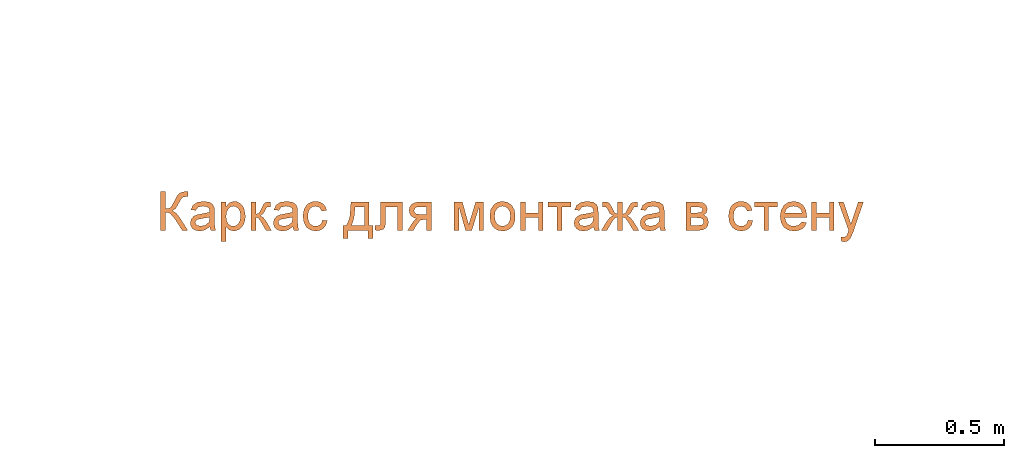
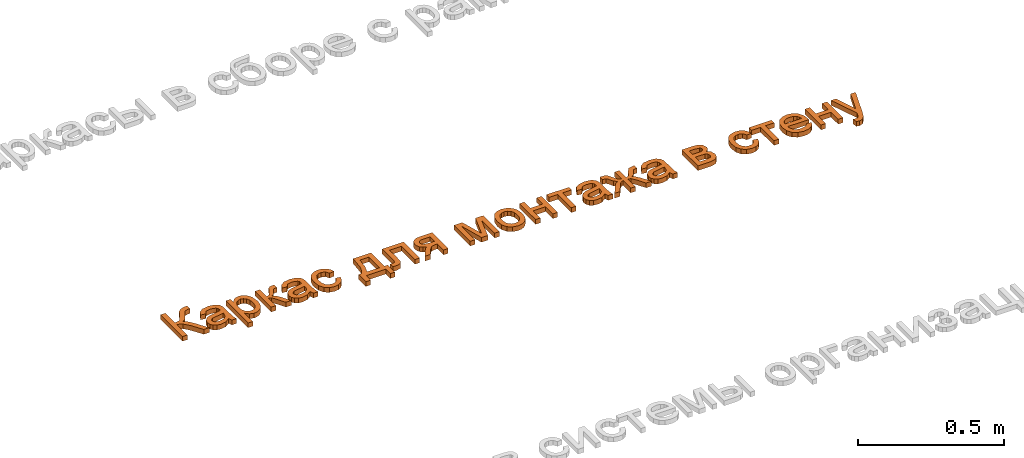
# One storey, part 31 of 87: 1 proxy.
"""IFC2X3 building model written with IfcOpenShell, lengths in millimetres."""

import ifcopenshell
import ifcopenshell.guid

model = None  # the IFC model being written
_history = None  # IfcOwnerHistory: only IFC2X3 demands one
_inside = {}  # id of a spatial element -> (the spatial element, [elements in it])
_under = {}  # id of a project, library or spatial element -> (it, [spatial elements below it])
_declared = {}  # id of a project -> (the project, [libraries it declares])
_typed = {}  # id of a type object -> (the type object, [elements of that type])
_made_of = {}  # id of a material, layer set ... -> (it, [elements and type objects made of it])


def new_model(schema):
    """Start an empty IFC model of exactly this schema.

    Asked for "IFC4X3", IfcOpenShell would pick the latest addendum, in which some entities
    have other attributes; the version numbers below select the first issue.
    IFC2X3 requires an IfcOwnerHistory on every rooted entity: one is made here for all.
    """
    global model, _history
    if schema == "IFC4X3":
        model = ifcopenshell.file(schema_version=(4, 3, 0, 0))
    else:
        model = ifcopenshell.file(schema=schema)
    _inside.clear()
    _under.clear()
    _declared.clear()
    _typed.clear()
    _made_of.clear()
    _history = None
    if model.schema == "IFC2X3":
        org = make("IfcOrganization", Name="unknown")
        user = make(
            "IfcPersonAndOrganization",
            ThePerson=make("IfcPerson", FamilyName="unknown"),
            TheOrganization=org,
        )
        app = make(
            "IfcApplication",
            ApplicationDeveloper=org,
            Version="unknown",
            ApplicationFullName="unknown",
            ApplicationIdentifier="unknown",
        )
        _history = make(
            "IfcOwnerHistory",
            OwningUser=user,
            OwningApplication=app,
            ChangeAction="ADDED",
            CreationDate=0,
        )
    return model


def make(cls, **values):
    """One entity of the class cls with the attributes given. An attribute that is None is left unset."""
    return model.create_entity(
        cls, **{name: value for name, value in values.items() if value is not None}
    )


def entity(cls, *values):
    """Any entity or typed value of the class cls, its attributes in the order of the schema. None: left unset."""
    e = model.create_entity(cls)
    for i, value in enumerate(values):
        if value is not None:
            e[i] = value
    return e


def rooted(cls, **values):
    """An entity with a GlobalId (a new one), such as an element, a storey or a relation."""
    return make(cls, GlobalId=ifcopenshell.guid.new(), OwnerHistory=_history, **values)


def si_unit(unit_type, name, prefix=None):
    """IfcSIUnit, for example si_unit("LENGTHUNIT", "METRE", prefix="MILLI")."""
    return make("IfcSIUnit", UnitType=unit_type, Prefix=prefix, Name=name)


def converted_unit(unit_type, name, factor, base, dimensions=None, offset=None):
    """IfcConversionBasedUnit, such as the inch: factor (a typed value) times the base unit."""
    return make(
        "IfcConversionBasedUnit"
        if offset is None
        else "IfcConversionBasedUnitWithOffset",
        ConversionOffset=offset,
        Dimensions=None
        if dimensions is None
        else entity("IfcDimensionalExponents", *dimensions),
        UnitType=unit_type,
        Name=name,
        ConversionFactor=make(
            "IfcMeasureWithUnit", ValueComponent=factor, UnitComponent=base
        ),
    )


def derived_unit(unit_type, elements):
    """IfcDerivedUnit: a product of units, each with its exponent."""
    return make(
        "IfcDerivedUnit",
        Elements=[
            make("IfcDerivedUnitElement", Unit=unit, Exponent=power)
            for unit, power in elements
        ],
        UnitType=unit_type,
    )


def assignment(units):
    """IfcUnitAssignment: the units of a project."""
    return None if units is None else make("IfcUnitAssignment", Units=units)


def point(xyz):
    """IfcCartesianPoint."""
    return None if xyz is None else make("IfcCartesianPoint", Coordinates=xyz)


def direction(xyz):
    """IfcDirection."""
    return None if xyz is None else make("IfcDirection", DirectionRatios=xyz)


def frame(location, z_axis=None, x_axis=None):
    """IfcAxis2Placement3D, a coordinate frame: its origin and axes. An axis left out is left unset."""
    return make(
        "IfcAxis2Placement3D",
        Location=point(location),
        Axis=direction(z_axis),
        RefDirection=direction(x_axis),
    )


def origin():
    """The frame at (0, 0, 0) with its axes left unset."""
    return frame((0.0, 0.0, 0.0))


def place(relative_to, where):
    """IfcLocalPlacement: puts the frame where relative to a parent placement (None: the world)."""
    return make(
        "IfcLocalPlacement", PlacementRelTo=relative_to, RelativePlacement=where
    )


def context(
    kind, dimensions, precision=None, world=None, true_north=None, identifier=None
):
    """IfcGeometricRepresentationContext, for example the 3D "Model" context."""
    return make(
        "IfcGeometricRepresentationContext",
        ContextIdentifier=identifier,
        ContextType=kind,
        CoordinateSpaceDimension=dimensions,
        Precision=precision,
        WorldCoordinateSystem=world,
        TrueNorth=true_north,
    )


def subcontext(parent, identifier, kind, view, scale=None):
    """IfcGeometricRepresentationSubContext, for example "Body" below "Model"."""
    return make(
        "IfcGeometricRepresentationSubContext",
        ContextIdentifier=identifier,
        ContextType=kind,
        ParentContext=parent,
        TargetScale=scale,
        TargetView=view,
    )


def project(units=None, contexts=None):
    """IfcProject with its units and contexts."""
    return rooted(
        "IfcProject",
        Name="project",
        RepresentationContexts=contexts,
        UnitsInContext=assignment(units),
    )


def spatial(cls, under=None, at=None, **own):
    """A site, building, storey or space (cls), placed at a placement, below another one or the project."""
    s = rooted(cls, ObjectPlacement=at, **own)
    if under is not None:
        _under.setdefault(under.id(), (under, []))[1].append(s)
    return s


def polyline(points):
    """IfcPolyline through the points."""
    return make("IfcPolyline", Points=[point(p) for p in points])


def outline(outer, holes=None, kind="AREA"):
    """IfcArbitraryClosedProfileDef: a profile drawn as a closed curve; with holes, ...WithVoids."""
    if holes is None:
        return make("IfcArbitraryClosedProfileDef", ProfileType=kind, OuterCurve=outer)
    return make(
        "IfcArbitraryProfileDefWithVoids",
        ProfileType=kind,
        OuterCurve=outer,
        InnerCurves=holes,
    )


def extrude(swept, where, along, depth):
    """IfcExtrudedAreaSolid: the profile swept, set in the frame where, extruded along a direction by depth."""
    return make(
        "IfcExtrudedAreaSolid",
        SweptArea=swept,
        Position=where,
        ExtrudedDirection=direction(along),
        Depth=depth,
    )


def shape(context_of_items, identifier, shape_type, items):
    """IfcShapeRepresentation: the items that make up one representation, for example the "Body"."""
    return make(
        "IfcShapeRepresentation",
        ContextOfItems=context_of_items,
        RepresentationIdentifier=identifier,
        RepresentationType=shape_type,
        Items=items,
    )


def made_of(thing, what):
    """Note that an element or type object is made of a material, layer set ...; save() writes the relation."""
    if what is not None:
        _made_of.setdefault(what.id(), (what, []))[1].append(thing)
    return thing


def element(
    cls,
    number,
    at=None,
    inside=None,
    cuts=None,
    type_object=None,
    material=None,
    context=None,
    identifier="Body",
    shape_type=None,
    held_by="IfcProductDefinitionShape",
    body=None,
    shapes=None,
    **own,
):
    """One element of the class cls, such as IfcWall. Its Tag is "e" and its number.

    at: its placement. inside: the storey or other place that contains it. cuts: it is an
    opening in that element (IfcRelVoidsElement). A single representation is given by context,
    identifier, shape_type and body (its items); several are given by shapes. held_by: the class
    of the entity that holds the representations. save() writes the other relations.
    """
    e = rooted(cls, Tag="e%d" % number, ObjectPlacement=at, **own)
    if body is not None:
        shapes = [shape(context, identifier, shape_type, body)]
    if shapes is not None:
        e.Representation = make(held_by, Representations=shapes)
    if inside is not None:
        _inside.setdefault(inside.id(), (inside, []))[1].append(e)
    if cuts is not None:
        rooted(
            "IfcRelVoidsElement", RelatingBuildingElement=cuts, RelatedOpeningElement=e
        )
    if type_object is not None:
        _typed.setdefault(type_object.id(), (type_object, []))[1].append(e)
    return made_of(e, material)


def aggregate(whole, parts):
    """IfcRelAggregates: a whole, such as a stair, and the parts it consists of."""
    return rooted("IfcRelAggregates", RelatingObject=whole, RelatedObjects=parts)


def save(model, path):
    """Write the relations noted so far, then the file.

    IfcRelAggregates (storeys below a building ...), IfcRelContainedInSpatialStructure (elements
    in a storey), IfcRelDefinesByType, IfcRelAssociatesMaterial and IfcRelDeclares: one each for
    every whole, place, type object, material and project.
    """
    for whole, parts in _under.values():
        aggregate(whole, parts)
    for where, things in _inside.values():
        rooted(
            "IfcRelContainedInSpatialStructure",
            RelatedElements=things,
            RelatingStructure=where,
        )
    for kind, things in _typed.values():
        rooted("IfcRelDefinesByType", RelatedObjects=things, RelatingType=kind)
    for what, things in _made_of.values():
        rooted("IfcRelAssociatesMaterial", RelatedObjects=things, RelatingMaterial=what)
    for by, libraries in _declared.values():
        rooted("IfcRelDeclares", RelatingContext=by, RelatedDefinitions=libraries)
    model.write(path)


model = new_model("IFC2X3")

# Units and contexts
model_context = context("Model", 3, precision=0.01, world=origin(), true_north=direction((6.12303176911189e-17, 1.0)))
body_context = subcontext(model_context, "Body", "Model", "MODEL_VIEW")
ifc_project = project(units=[si_unit("LENGTHUNIT", "METRE", prefix="MILLI"), si_unit("AREAUNIT", "SQUARE_METRE"), si_unit("VOLUMEUNIT", "CUBIC_METRE"), converted_unit("PLANEANGLEUNIT", "DEGREE", entity("IfcRatioMeasure", 0.0174532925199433), si_unit("PLANEANGLEUNIT", "RADIAN"), dimensions=[0, 0, 0, 0, 0, 0, 0]), si_unit("MASSUNIT", "GRAM", prefix="KILO"), derived_unit("MASSDENSITYUNIT", [(si_unit("MASSUNIT", "GRAM", prefix="KILO"), 1), (si_unit("LENGTHUNIT", "METRE"), -3)]), si_unit("TIMEUNIT", "SECOND"), si_unit("FREQUENCYUNIT", "HERTZ"), si_unit("THERMODYNAMICTEMPERATUREUNIT", "DEGREE_CELSIUS"), derived_unit("THERMALTRANSMITTANCEUNIT", [(si_unit("MASSUNIT", "GRAM", prefix="KILO"), 1), (si_unit("THERMODYNAMICTEMPERATUREUNIT", "KELVIN"), -1), (si_unit("TIMEUNIT", "SECOND"), -3)]), derived_unit("VOLUMETRICFLOWRATEUNIT", [(si_unit("LENGTHUNIT", "METRE"), 3), (si_unit("TIMEUNIT", "SECOND"), -1)]), si_unit("ELECTRICCURRENTUNIT", "AMPERE"), si_unit("ELECTRICVOLTAGEUNIT", "VOLT"), si_unit("POWERUNIT", "WATT"), si_unit("FORCEUNIT", "NEWTON", prefix="KILO"), si_unit("ILLUMINANCEUNIT", "LUX"), si_unit("LUMINOUSFLUXUNIT", "LUMEN"), si_unit("LUMINOUSINTENSITYUNIT", "CANDELA"), derived_unit("USERDEFINED", [(si_unit("MASSUNIT", "GRAM", prefix="KILO"), -1), (si_unit("LENGTHUNIT", "METRE"), -2), (si_unit("TIMEUNIT", "SECOND"), 3), (si_unit("LUMINOUSFLUXUNIT", "LUMEN"), 1)]), derived_unit("LINEARVELOCITYUNIT", [(si_unit("LENGTHUNIT", "METRE"), 1), (si_unit("TIMEUNIT", "SECOND"), -1)]), si_unit("PRESSUREUNIT", "PASCAL"), derived_unit("USERDEFINED", [(si_unit("LENGTHUNIT", "METRE"), -2), (si_unit("MASSUNIT", "GRAM", prefix="KILO"), 1), (si_unit("TIMEUNIT", "SECOND"), -2)])], contexts=[model_context])

# Site, building, storey
site_placement = place(None, origin())
site = spatial("IfcSite", under=ifc_project, at=site_placement, Name="Default", CompositionType="ELEMENT")
building_placement = place(site_placement, origin())
building = spatial("IfcBuilding", under=site, at=building_placement, Name="Наименование здания", CompositionType="ELEMENT")
storey_placement = place(building_placement, origin())
storey = spatial("IfcBuildingStorey", under=building, at=storey_placement, Name="Этаж 01", CompositionType="ELEMENT", Elevation=0.0)

# Proxy
proxy_placement = place(storey_placement, origin())
element("IfcBuildingElementProxy", 1, at=proxy_placement, inside=storey, Name="Текст модели:150 мм Arial", ObjectType="Текст модели:150 мм Arial", context=body_context, shape_type="SweptSolid", body=[
    extrude(outline(polyline([(-61.1706006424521, -57.641999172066), (89.513864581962, -57.641999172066), (89.513864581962, -38.8064410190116), (18.8805215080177, -38.8064410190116), (20.3842391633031, -27.8849442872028), (24.8953921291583, -19.1799365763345), (47.0602823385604, -0.325984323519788), (89.513864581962, 26.455824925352), (89.513864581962, 48.3080154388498), (39.2611840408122, 16.6333756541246), (21.5108777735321, 2.29517489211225), (12.9944095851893, -12.2453609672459), (5.19531128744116, 0.759267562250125), (-37.8100939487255, 25.2786025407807), (-42.3350424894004, 39.9938823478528), (-42.1143132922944, 48.3080154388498), (-60.9498714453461, 48.3080154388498), (-61.1706006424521, 35.9471804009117), (-56.939957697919, 19.1165791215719), (-46.510503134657, 7.34435527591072), (-25.4492589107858, -3.04831108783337), (-0.230948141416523, -17.7451967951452), (3.50765263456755, -26.0547313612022), (4.75385289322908, -38.8064410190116), (-61.1706006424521, -38.8064410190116), (-61.1706006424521, -57.641999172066)])), frame((71691.8076137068, 2745.31688172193, 0.0), z_axis=(0.0, 0.0, 1.0), x_axis=(0.0, -1.0, 0.0)), (0.0, 0.0, 1.0), 20.0),
    extrude(outline(polyline([(49.6524096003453, 10.0181831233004), (64.5432257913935, 10.0181831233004), (70.49955226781, 27.8871625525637), (54.2883394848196, 29.3355270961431), (22.9420080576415, 38.776071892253), (0.710484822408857, 46.1865796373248), (-15.2157084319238, 50.5258565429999), (-29.170031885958, 49.0891254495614), (-41.2222862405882, 39.514795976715), (-51.6167739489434, 18.9177724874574), (-55.8804334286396, -5.85565960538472), (-50.8431495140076, -24.8298167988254), (-35.969783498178, -38.3769694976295), (-27.7798345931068, -21.2525308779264), (-37.1040448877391, -8.56625349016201), (-34.5156022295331, 10.658022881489), (-29.3910674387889, 21.7272506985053), (-22.7658175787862, 28.6898706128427), (-16.3179778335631, 30.6413818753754), (-7.93316863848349, 29.213375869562), (-3.98942903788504, 27.7824615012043), (-8.17747109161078, -5.25653692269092), (-10.6437625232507, -21.6131678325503), (-8.95109552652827, -36.0793630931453), (-1.68600590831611, -48.486437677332), (11.3085579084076, -56.6182193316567), (24.0777236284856, -58.3588743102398), (36.0005558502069, -54.7859509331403), (46.0329524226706, -45.8907241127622), (53.1308111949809, -31.6644687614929), (55.9868232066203, -11.3466480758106), (49.6524096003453, 10.0181831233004)]), holes=[polyline([(13.9144507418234, 21.9308360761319), (18.9401012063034, 20.1392847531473), (31.818330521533, 12.7055101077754), (38.2807120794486, -2.40052491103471), (36.529877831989, -21.9040040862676), (27.4499699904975, -36.230597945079), (16.0084717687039, -38.3304356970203), (9.94744424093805, -33.5956214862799), (7.55677023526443, -25.0624858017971), (9.7845759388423, -8.72330506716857), (13.9144507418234, 21.9308360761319)])]), frame((71799.6700872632, 2713.86606978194, 0.0), z_axis=(0.0, 0.0, 1.0), x_axis=(0.31622776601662, -0.948683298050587, 0.0)), (0.0, 0.0, 1.0), 20.0),
    extrude(outline(polyline([(-51.3898957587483, -92.5503727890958), (-32.5543376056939, -92.5503727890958), (-32.5543376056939, -35.4550871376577), (-20.6165668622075, -47.6871634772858), (-4.22742397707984, -52.5248117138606), (7.98165973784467, -50.7175914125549), (19.592935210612, -45.2959305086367), (29.5625372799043, -36.4851567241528), (36.8466007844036, -24.510597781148), (41.302571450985, -10.1034191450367), (42.787895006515, 6.0052137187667), (37.527182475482, 35.0311031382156), (30.9972770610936, 46.7849328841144), (21.9289858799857, 55.5589184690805), (10.7913584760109, 61.021966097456), (-1.946555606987, 62.8429819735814), (-19.5313149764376, 57.6374517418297), (-32.5543376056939, 42.0208610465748), (-32.5543376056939, 60.4885372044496), (-51.3898957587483, 60.4885372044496), (-51.3898957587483, -92.5503727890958)]), holes=[polyline([(-32.5543376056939, 4.27616834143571), (-30.379235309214, 21.3596884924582), (-23.8539284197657, 33.8354866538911), (-14.5051272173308, 41.4644395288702), (-3.85954198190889, 44.0074238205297), (6.74465652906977, 41.6161908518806), (15.7485683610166, 34.4424919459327), (21.901394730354, 22.4679330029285), (23.9523368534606, 5.67411992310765), (21.8508109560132, -11.8462600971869), (15.5462332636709, -24.0875334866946), (6.29859960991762, -31.2888235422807), (-4.63209417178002, -33.6892535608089), (-15.388044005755, -31.3715969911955), (-24.4057514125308, -24.4186272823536), (-30.5171910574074, -12.609615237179), (-32.5543376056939, 4.27616834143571)])]), frame((71921.0, 2705.97338408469, 0.0)), (0.0, 0.0, 1.0), 20.0),
    extrude(outline(polyline([(-45.4943568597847, -44.3029556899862), (65.1645472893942, -44.3029556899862), (65.1645472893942, -25.4673975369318), (13.3667623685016, -25.4673975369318), (16.8432472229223, -15.3506426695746), (31.2090391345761, -5.41782879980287), (65.1645472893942, 14.3374343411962), (65.1645472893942, 35.748166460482), (30.4732751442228, 15.5882331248), (15.031428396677, 3.92637387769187), (7.70137964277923, -7.95621456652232), (1.1346860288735, 2.69396919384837), (-12.2746126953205, 10.2907323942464), (-24.6722359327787, 16.7654555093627), (-26.658798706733, 25.9625053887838), (-26.54843410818, 31.0392769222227), (-45.4943568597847, 31.0392769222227), (-45.4943568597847, 27.434033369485), (-44.0596170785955, 13.6568526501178), (-38.5229930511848, 6.07848354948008), (-21.5084507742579, -2.51156103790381), (-1.78997583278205, -12.8490451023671), (1.59453852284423, -25.4673975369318), (-45.4943568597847, -25.4673975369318), (-45.4943568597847, -44.3029556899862)])), frame((72029.2808408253, 2720.96756442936, 0.0), z_axis=(0.0, 0.0, 1.0), x_axis=(0.0, -1.0, 0.0)), (0.0, 0.0, 1.0), 20.0),
    extrude(outline(polyline([(49.6524096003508, 10.018183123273), (64.5432257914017, 10.018183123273), (70.4995522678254, 27.8871625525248), (54.2883394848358, 29.3355270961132), (22.9420080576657, 38.7760718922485), (0.710484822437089, 46.1865796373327), (-15.2157084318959, 50.5258565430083), (-29.1700318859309, 49.0891254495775), (-41.2222862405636, 39.514795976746), (-51.616773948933, 18.9177724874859), (-55.8804334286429, -5.85565960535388), (-50.8431495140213, -24.8298167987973), (-35.9697834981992, -38.3769694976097), (-27.7798345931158, -21.2525308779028), (-37.1040448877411, -8.56625349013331), (-34.5156022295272, 10.658022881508), (-29.3910674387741, 21.7272506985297), (-22.7658175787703, 28.6898706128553), (-16.3179778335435, 30.6413818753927), (-7.93316863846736, 29.2133758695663), (-3.9894290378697, 27.7824615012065), (-8.17747109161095, -5.25653692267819), (-10.6437625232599, -21.6131678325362), (-8.95109552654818, -36.0793630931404), (-1.68600590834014, -48.4864376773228), (11.3085579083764, -56.6182193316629), (24.0777236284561, -58.3588743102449), (36.0005558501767, -54.7859509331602), (46.0329524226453, -45.8907241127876), (53.1308111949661, -31.664468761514), (55.9868232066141, -11.3466480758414), (49.6524096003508, 10.018183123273)]), holes=[polyline([(13.9144507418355, 21.9308360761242), (18.9401012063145, 20.1392847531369), (31.81833052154, 12.7055101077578), (38.2807120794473, -2.40052491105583), (36.5298778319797, -21.9040040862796), (27.4499699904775, -36.2305979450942), (16.0084717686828, -38.3304356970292), (9.94744424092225, -33.5956214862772), (7.5567702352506, -25.0624858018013), (9.78457593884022, -8.72330506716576), (13.9144507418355, 21.9308360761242)])]), frame((72122.2290206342, 2713.86606978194, 0.0), z_axis=(0.0, 0.0, 1.0), x_axis=(0.316227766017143, -0.948683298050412, 0.0)), (0.0, 0.0, 1.0), 20.0),
    extrude(outline(polyline([(6.77218430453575, -32.6880162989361), (3.47919135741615, -51.3823432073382), (21.0352248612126, -51.2935104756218), (36.0385414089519, -45.5877688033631), (47.6356474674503, -34.97424667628), (54.9730495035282, -20.1620725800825), (57.3315572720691, 0.0758389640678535), (51.3286597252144, 18.3174486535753), (37.0810593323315, 33.2854261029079), (14.7054585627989, 43.7024409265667), (-1.73746788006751, 47.2596707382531), (-16.89165660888, 47.4079950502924), (-30.2412319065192, 43.9163864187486), (-41.2703180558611, 36.5538173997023), (-49.689640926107, 26.2753303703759), (-55.209926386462, 14.0359677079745), (-57.6963038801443, -1.85137033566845), (-54.8486013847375, -16.0419747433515), (-46.8993177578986, -28.040830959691), (-34.0809518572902, -37.3529244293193), (-26.2876013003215, -20.0443904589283), (-37.1997991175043, -7.5421519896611), (-37.2518019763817, 8.35215978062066), (-31.4457718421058, 19.300631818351), (-21.9310317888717, 26.4799459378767), (-8.59621128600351, 28.9704724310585), (8.67006019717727, 25.8525815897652), (24.9370752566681, 18.6926998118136), (34.6412636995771, 9.25213062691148), (38.4812527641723, -1.85665774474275), (37.1556696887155, -14.0211970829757), (32.905299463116, -22.9177981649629), (26.4119100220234, -29.2856740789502), (17.694529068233, -32.6880162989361), (6.77218430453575, -32.6880162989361)])), frame((72233.5549377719, 2711.92071048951, 0.0), z_axis=(0.0, 0.0, -1.0), x_axis=(-0.294292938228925, -0.955715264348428, 0.0)), (0.0, 0.0, -1.0), 20.0),
    extrude(outline(polyline([(-89.812024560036, 30.1307985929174), (-95.2116329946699, -40.2958539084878), (-3.65698474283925, -47.3153448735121), (-4.73690642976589, -61.4006753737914), (44.5617503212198, -65.1804012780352), (46.0016459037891, -46.3999606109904), (15.4834298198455, -44.0601302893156), (21.4229990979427, 33.4091874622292), (51.9412151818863, 31.0693571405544), (53.3811107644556, 49.8497978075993), (4.0824540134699, 53.6295237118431), (3.18251927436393, 41.8917482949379), (-12.8912765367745, 34.5411547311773), (-33.7482991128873, 30.1307985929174), (-89.812024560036, 30.1307985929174)]), holes=[polyline([(-72.2914925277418, 12.2580174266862), (-29.1661575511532, 13.379139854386), (1.56263674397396, 20.763752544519), (-2.21708916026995, -28.5349042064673), (-74.9912967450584, -22.9553088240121), (-72.2914925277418, 12.2580174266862)])]), frame((72396.6381662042, 2674.60934181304, 0.0), z_axis=(0.0, 0.0, -1.0), x_axis=(-0.0764456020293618, -0.997073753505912, 0.0)), (0.0, 0.0, -1.0), 20.0),
    extrude(outline(polyline([(-74.0534959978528, 18.8171640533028), (-74.0534959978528, -65.9428476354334), (36.495043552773, -65.9428476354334), (36.495043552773, -47.107289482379), (-55.2179378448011, -47.107289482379), (-55.2179378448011, -0.0183940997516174), (-2.42687153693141, -0.0183940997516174), (21.9269165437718, 1.25079878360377), (32.2092183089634, 8.22216259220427), (36.6054081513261, 24.7032759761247), (35.6489149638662, 40.0071669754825), (17.7698499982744, 40.0071669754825), (17.7698499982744, 31.5826692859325), (16.6110217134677, 23.0662010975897), (12.9322017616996, 19.6632926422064), (-3.49372932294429, 18.8171640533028), (-74.0534959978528, 18.8171640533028)])), frame((72507.6462297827, 2692.40842529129, 0.0), z_axis=(0.0, 0.0, -1.0), x_axis=(0.0, -1.0, 0.0)), (0.0, 0.0, -1.0), 20.0),
    extrude(outline(polyline([(-56.4073463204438, -58.5456604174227), (-7.25831176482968, -58.5456604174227), (9.02966357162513, -56.3291713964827), (20.9582372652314, -49.6797043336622), (28.269891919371, -39.4709789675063), (30.7071101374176, -26.5767150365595), (28.922882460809, -15.2091613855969), (23.5701994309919, -5.23955931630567), (14.5203023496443, 2.25603633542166), (1.64443251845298, 6.20157073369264), (9.33316621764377, 11.0208248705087), (17.6840875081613, 21.8733437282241), (36.5932220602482, 52.1132437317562), (14.8146079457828, 52.1132437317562), (-0.194977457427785, 28.2009140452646), (-13.3283646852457, 12.1244708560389), (-27.3078805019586, 9.7332378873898), (-37.5717881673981, 9.7332378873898), (-37.5717881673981, 52.1132437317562), (-56.4073463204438, 52.1132437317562), (-56.4073463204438, -58.5456604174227)]), holes=[polyline([(-37.5717881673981, -39.710102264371), (-37.5717881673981, -9.10232026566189), (-18.2947716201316, -9.10232026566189), (5.23128197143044, -12.9834753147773), (10.2114844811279, -17.9636778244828), (11.8715519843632, -25.1419752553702), (7.3649975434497, -35.3507006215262), (0.0855325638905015, -38.6202518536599), (-12.7397534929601, -39.710102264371), (-37.5717881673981, -39.710102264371)])]), frame((72630.195080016, 2707.91626087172, 0.0), z_axis=(0.0, 0.0, 1.0), x_axis=(-1.0, 0.0, 0.0)), (0.0, 0.0, 1.0), 20.0),
    extrude(outline(polyline([(-60.8759806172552, -57.6754072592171), (49.7829235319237, -57.6754072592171), (49.7829235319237, -38.8398491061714), (-43.5855268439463, -38.8398491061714), (49.7829235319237, -12.9409566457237), (49.7829235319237, 11.7807134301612), (-39.3180956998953, 38.8568282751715), (49.7829235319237, 38.8568282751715), (49.7829235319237, 57.6923864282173), (-60.8759806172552, 57.6923864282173), (-60.8759806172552, 26.6431460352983), (27.710003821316, -0.285816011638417), (-60.8759806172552, -25.26500348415), (-60.8759806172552, -57.6754072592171)])), frame((72831.3922900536, 2705.58594067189, 0.0), z_axis=(0.0, 0.0, 1.0), x_axis=(0.0, -1.0, 0.0)), (0.0, 0.0, 1.0), 20.0),
    extrude(outline(polyline([(-11.1946000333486, -52.2426443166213), (13.7256178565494, -52.2426443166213), (33.0962748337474, -44.5759588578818), (46.3022849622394, -30.4665992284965), (52.7285623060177, -11.1385767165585), (52.8795704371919, 2.26160042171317), (49.5396030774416, 15.0586597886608), (42.9102470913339, 26.3612191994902), (33.1930893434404, 35.2778964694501), (19.4724914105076, 41.8007990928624), (0.832814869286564, 45.9220345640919), (-22.8762356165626, 45.7172545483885), (-41.8930612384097, 37.8901775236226), (-55.1425891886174, 23.7682718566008), (-61.5497466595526, 4.6790059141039), (-60.9951142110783, -13.651543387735), (-53.9645370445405, -29.8701936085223), (-37.0646721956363, -44.5487589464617), (-11.1946000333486, -52.2426443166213)]), holes=[polyline([(-8.64857835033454, -33.5799173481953), (-25.2263685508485, -29.0848574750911), (-36.3325046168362, -20.9461821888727), (-42.1575488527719, -10.2052592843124), (-42.892063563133, 2.09654344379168), (-38.8516378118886, 13.6120893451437), (-30.3014219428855, 22.3586496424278), (-17.5331679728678, 27.2345846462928), (-0.838627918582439, 27.13825466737), (16.1172354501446, 22.590864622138), (27.4101305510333, 14.4263394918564), (33.3060231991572, 3.69417972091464), (34.0708792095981, -8.55611424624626), (30.0134303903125, -20.1946478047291), (21.4625840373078, -28.9457632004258), (8.53602088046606, -33.7580048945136), (-8.64857835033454, -33.5799173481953)])]), frame((72965.913254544, 2707.20635081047, 0.0), z_axis=(0.0, 0.0, 1.0), x_axis=(0.137105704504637, -0.990556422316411, 0.0)), (0.0, 0.0, 1.0), 20.0),
    extrude(outline(polyline([(-54.1522296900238, -43.557228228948), (56.5066744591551, -43.557228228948), (56.5066744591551, -24.7216700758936), (7.06333430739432, -24.7216700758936), (7.06333430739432, 24.721670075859), (56.5066744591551, 24.721670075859), (56.5066744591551, 43.5572282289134), (-54.1522296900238, 43.5572282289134), (-54.1522296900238, 24.721670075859), (-11.7722238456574, 24.721670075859), (-11.7722238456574, -24.7216700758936), (-54.1522296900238, -24.7216700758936), (-54.1522296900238, -43.557228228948)])), frame((73076.2630356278, 2712.30969159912, 0.0), z_axis=(0.0, 0.0, 1.0), x_axis=(0.0, -1.0, 0.0)), (0.0, 0.0, 1.0), 20.0),
    extrude(outline(polyline([(-37.0825051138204, -44.7344506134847), (-18.2469469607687, -44.7344506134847), (-18.2469469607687, -9.41777907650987), (73.5763990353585, -9.41777907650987), (73.5763990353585, 9.41777907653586), (-18.2469469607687, 9.41777907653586), (-18.2469469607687, 44.7344506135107), (-37.0825051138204, 44.7344506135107), (-37.0825051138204, -44.7344506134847)])), frame((73183.3902726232, 2729.37941617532, 0.0), z_axis=(0.0, 0.0, 1.0), x_axis=(0.0, -1.0, 0.0)), (0.0, 0.0, 1.0), 20.0),
    extrude(outline(polyline([(49.6524096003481, 10.0181831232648), (64.543225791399, 10.0181831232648), (70.4995522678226, 27.8871625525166), (54.288339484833, 29.3355270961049), (22.9420080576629, 38.7760718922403), (0.710484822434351, 46.1865796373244), (-15.2157084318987, 50.525856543), (-29.1700318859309, 49.0891254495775), (-41.2222862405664, 39.5147959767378), (-51.6167739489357, 18.9177724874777), (-55.8804334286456, -5.8556596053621), (-50.8431495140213, -24.8298167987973), (-35.9697834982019, -38.3769694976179), (-27.7798345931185, -21.2525308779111), (-37.1040448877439, -8.56625349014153), (-34.5156022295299, 10.6580228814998), (-29.3910674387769, 21.7272506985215), (-22.7658175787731, 28.6898706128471), (-16.3179778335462, 30.6413818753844), (-7.9331686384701, 29.2133758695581), (-3.98942903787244, 27.7824615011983), (-8.17747109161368, -5.25653692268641), (-10.6437625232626, -21.6131678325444), (-8.95109552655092, -36.0793630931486), (-1.68600590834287, -48.486437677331), (11.3085579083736, -56.6182193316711), (24.0777236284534, -58.3588743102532), (36.0005558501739, -54.7859509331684), (46.0329524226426, -45.8907241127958), (53.1308111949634, -31.6644687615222), (55.9868232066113, -11.3466480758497), (49.6524096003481, 10.0181831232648)]), holes=[polyline([(13.9144507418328, 21.930836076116), (18.9401012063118, 20.1392847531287), (31.8183305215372, 12.7055101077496), (38.2807120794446, -2.40052491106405), (36.529877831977, -21.9040040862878), (27.4499699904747, -36.2305979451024), (16.00847176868, -38.3304356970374), (9.94744424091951, -33.5956214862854), (7.55677023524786, -25.0624858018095), (9.78457593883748, -8.72330506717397), (13.9144507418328, 21.930836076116)])]), frame((73290.0336261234, 2713.86606978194, 0.0), z_axis=(0.0, 0.0, 1.0), x_axis=(0.316227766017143, -0.948683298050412, 0.0)), (0.0, 0.0, 1.0), 20.0),
    extrude(outline(polyline([(-10.6993772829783, -45.1990085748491), (8.13618087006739, -45.1990085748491), (8.13618087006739, 1.88988680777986), (19.1910348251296, -2.12002693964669), (29.4733365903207, -22.1328074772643), (39.075056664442, -39.0185910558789), (47.646707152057, -44.0217861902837), (64.164608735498, -45.1990085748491), (66.9973000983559, -45.1990085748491), (66.9973000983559, -26.3634504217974), (61.4054937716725, -26.4738150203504), (53.2753016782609, -25.186228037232), (48.3088947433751, -18.8218695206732), (38.1553516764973, 0.491935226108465), (26.3095514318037, 7.99672792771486), (38.679583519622, 15.3267766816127), (50.7737041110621, 30.7686234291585), (71.7061896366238, 65.4598955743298), (50.1483047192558, 65.4598955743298), (29.4733365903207, 31.1732936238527), (18.8599410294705, 16.9546545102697), (8.13618087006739, 13.6621106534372), (8.13618087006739, 65.4598955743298), (-10.6993772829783, 65.4598955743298), (-10.6993772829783, 13.6621106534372), (-21.4599256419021, 17.0282309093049), (-31.9997448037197, 31.2468700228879), (-52.6747129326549, 65.4598955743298), (-74.2693860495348, 65.4598955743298), (-53.2633241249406, 30.7686234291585), (-41.2611740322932, 15.3267766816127), (-28.9463242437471, 7.99672792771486), (-40.111542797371, 1.19091101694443), (-47.9290351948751, -12.1999936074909), (-54.6612757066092, -24.4136758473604), (-64.3733603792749, -26.3634504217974), (-69.5604965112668, -26.2530858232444), (-69.5604965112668, -45.1990085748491), (-62.0924920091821, -45.1990085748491), (-44.4709444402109, -41.4466122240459), (-32.0733212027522, -22.1328074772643), (-21.6806548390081, -1.99126824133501), (-10.6993772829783, 1.88988680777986), (-10.6993772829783, -45.1990085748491)])), frame((73417.5531513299, 2721.26291271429, 0.0), z_axis=(0.0, 0.0, 1.0), x_axis=(-1.0, 0.0, 0.0)), (0.0, 0.0, 1.0), 20.0),
    extrude(outline(polyline([(49.6524096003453, 10.0181831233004), (64.5432257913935, 10.0181831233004), (70.49955226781, 27.8871625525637), (54.2883394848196, 29.3355270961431), (22.9420080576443, 38.7760718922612), (0.710484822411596, 46.186579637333), (-15.2157084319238, 50.5258565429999), (-29.170031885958, 49.0891254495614), (-41.2222862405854, 39.5147959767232), (-51.6167739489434, 18.9177724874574), (-55.8804334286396, -5.85565960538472), (-50.8431495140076, -24.8298167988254), (-35.969783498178, -38.3769694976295), (-27.7798345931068, -21.2525308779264), (-37.1040448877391, -8.56625349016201), (-34.5156022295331, 10.658022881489), (-29.3910674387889, 21.7272506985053), (-22.7658175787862, 28.6898706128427), (-16.3179778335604, 30.6413818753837), (-7.93316863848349, 29.213375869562), (-3.98942903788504, 27.7824615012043), (-8.17747109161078, -5.25653692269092), (-10.6437625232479, -21.6131678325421), (-8.95109552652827, -36.0793630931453), (-1.68600590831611, -48.486437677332), (11.3085579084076, -56.6182193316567), (24.0777236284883, -58.3588743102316), (36.0005558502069, -54.7859509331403), (46.0329524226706, -45.8907241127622), (53.1308111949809, -31.6644687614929), (55.9868232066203, -11.3466480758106), (49.6524096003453, 10.0181831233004)]), holes=[polyline([(13.9144507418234, 21.9308360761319), (18.9401012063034, 20.1392847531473), (31.818330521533, 12.7055101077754), (38.2807120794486, -2.40052491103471), (36.529877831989, -21.9040040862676), (27.4499699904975, -36.230597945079), (16.0084717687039, -38.3304356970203), (9.94744424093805, -33.5956214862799), (7.55677023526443, -25.0624858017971), (9.78457593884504, -8.72330506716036), (13.9144507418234, 21.9308360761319)])]), frame((73546.6681059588, 2713.86606978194, 0.0), z_axis=(0.0, 0.0, 1.0), x_axis=(0.31622776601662, -0.948683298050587, 0.0)), (0.0, 0.0, 1.0), 20.0),
    extrude(outline(polyline([(-56.9428773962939, -61.1019147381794), (53.7160267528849, -61.1019147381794), (53.7160267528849, -13.2404671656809), (51.720266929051, 3.22225211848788), (45.7329874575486, 15.2335992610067), (35.6254296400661, 22.8211654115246), (21.2688347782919, 26.0125417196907), (3.51852851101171, 20.9725583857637), (-6.6901968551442, 8.31741775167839), (-16.016005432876, 18.0662906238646), (-29.0942103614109, 21.3036521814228), (-45.1890476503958, 15.9509691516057), (-54.4228857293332, 3.14867571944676), (-56.9428773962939, -19.6048256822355), (-56.9428773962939, -61.1019147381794)]), holes=[polyline([(-14.5628715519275, -42.266356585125), (-38.1073192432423, -42.266356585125), (-38.1073192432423, -23.0629164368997), (-35.4953570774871, -3.30765329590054), (-31.8809164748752, 1.02415719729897), (-26.2615189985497, 2.46809402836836), (-19.3453374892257, -0.824449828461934), (-15.5193647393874, -8.29245433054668), (-14.5628715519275, -23.6515276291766), (-14.5628715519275, -42.266356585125)]), polyline([(34.8804685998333, -42.266356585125), (4.27268660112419, -42.266356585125), (4.27268660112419, -21.0027772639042), (5.37633258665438, -4.42969338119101), (10.6554392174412, 3.95801610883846), (19.7237303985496, 7.1769835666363), (26.8376484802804, 5.56749983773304), (31.4775601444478, 1.32765984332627), (34.8804685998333, -19.1633672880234), (34.8804685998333, -42.266356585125)])]), frame((73736.5711441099, 2709.51904389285, 0.0), z_axis=(0.0, 0.0, 1.0), x_axis=(0.0, -1.0, 0.0)), (0.0, 0.0, 1.0), 20.0),
    extrude(outline(polyline([(6.77218430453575, -32.6880162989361), (3.4791913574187, -51.38234320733), (21.0352248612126, -51.2935104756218), (36.0385414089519, -45.5877688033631), (47.6356474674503, -34.97424667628), (54.9730495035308, -20.1620725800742), (57.3315572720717, 0.0758389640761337), (51.3286597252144, 18.3174486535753), (37.0810593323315, 33.2854261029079), (14.7054585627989, 43.7024409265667), (-1.73746788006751, 47.2596707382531), (-16.89165660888, 47.4079950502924), (-30.2412319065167, 43.9163864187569), (-41.2703180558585, 36.5538173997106), (-49.689640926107, 26.2753303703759), (-55.209926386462, 14.0359677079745), (-57.6963038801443, -1.85137033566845), (-54.8486013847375, -16.0419747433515), (-46.8993177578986, -28.040830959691), (-34.0809518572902, -37.3529244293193), (-26.2876013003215, -20.0443904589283), (-37.1997991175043, -7.5421519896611), (-37.2518019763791, 8.35215978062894), (-31.4457718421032, 19.3006318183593), (-21.9310317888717, 26.4799459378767), (-8.59621128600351, 28.9704724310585), (8.67006019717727, 25.8525815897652), (24.9370752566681, 18.6926998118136), (34.6412636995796, 9.25213062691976), (38.4812527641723, -1.85665774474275), (37.1556696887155, -14.0211970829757), (32.905299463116, -22.9177981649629), (26.411910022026, -29.2856740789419), (17.694529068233, -32.6880162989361), (6.77218430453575, -32.6880162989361)])), frame((73886.3751657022, 2711.92071048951, 0.0), z_axis=(0.0, 0.0, -1.0), x_axis=(-0.294292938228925, -0.955715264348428, 0.0)), (0.0, 0.0, -1.0), 20.0),
    extrude(outline(polyline([(-37.0825051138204, -44.7344506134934), (-18.2469469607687, -44.7344506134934), (-18.2469469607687, -9.4177790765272), (73.5763990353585, -9.4177790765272), (73.5763990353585, 9.4177790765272), (-18.2469469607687, 9.4177790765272), (-18.2469469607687, 44.734450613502), (-37.0825051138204, 44.734450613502), (-37.0825051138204, -44.7344506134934)])), frame((73986.2559388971, 2729.37941617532, 0.0), z_axis=(0.0, 0.0, 1.0), x_axis=(0.0, -1.0, 0.0)), (0.0, 0.0, 1.0), 20.0),
    extrude(outline(polyline([(-12.1519235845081, -30.5627594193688), (-23.3028322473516, -45.4710024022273), (-8.67600558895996, -50.3662606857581), (6.1827763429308, -49.9698260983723), (20.8164252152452, -44.172116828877), (34.7678526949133, -32.8635510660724), (47.457064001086, -14.3885693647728), (51.2430729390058, 5.61202992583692), (45.9060763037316, 25.8663302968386), (31.2262708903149, 45.1024152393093), (10.915474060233, 59.677009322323), (-9.99269287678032, 64.6676720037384), (-29.9463894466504, 60.6331852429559), (-47.3937751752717, 48.1323309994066), (-58.8653278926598, 30.7635073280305), (-61.9660241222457, 11.0147969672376), (-56.1560561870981, -9.5244374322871), (-40.8956164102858, -29.2648332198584), (-37.170687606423, -32.7160206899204), (21.6964908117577, 28.1133970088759), (29.5607979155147, 15.9656989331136), (31.7422008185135, 3.3150757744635), (28.7208128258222, -8.97205129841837), (20.9767472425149, -20.0292611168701), (5.30526907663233, -30.5627594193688), (-12.1519235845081, -30.5627594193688)]), holes=[polyline([(8.16121838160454, 41.2120477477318), (-37.6840592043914, -6.16140575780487), (-43.0633748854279, 2.58957596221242), (-44.7058228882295, 11.1286426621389), (-41.8277013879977, 23.6248066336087), (-33.8073361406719, 35.086552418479), (-23.7122716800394, 42.985503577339), (-12.6145549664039, 46.8552978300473), (-1.62109020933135, 46.3720932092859), (8.16121838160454, 41.2120477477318)])]), frame((74094.5342786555, 2701.28684337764, 0.0), z_axis=(0.0, 0.0, -1.0), x_axis=(-0.695421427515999, -0.718602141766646, 0.0)), (0.0, 0.0, -1.0), 20.0),
    extrude(outline(polyline([(-54.1522296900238, -43.5572282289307), (56.5066744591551, -43.5572282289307), (56.5066744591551, -24.721670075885), (7.06333430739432, -24.721670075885), (7.06333430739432, 24.7216700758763), (56.5066744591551, 24.7216700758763), (56.5066744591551, 43.5572282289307), (-54.1522296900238, 43.5572282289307), (-54.1522296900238, 24.7216700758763), (-11.7722238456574, 24.7216700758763), (-11.7722238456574, -24.721670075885), (-54.1522296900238, -24.721670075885), (-54.1522296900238, -43.5572282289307)])), frame((74206.3965248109, 2712.30969159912, 0.0), z_axis=(0.0, 0.0, 1.0), x_axis=(0.0, -1.0, 0.0)), (0.0, 0.0, 1.0), 20.0),
    extrude(outline(polyline([(-14.0627784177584, -63.6897846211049), (-2.30982667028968, -63.6897846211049), (11.2235996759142, -56.6043892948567), (19.2677475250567, -41.4042581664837), (24.1483344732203, -15.3233337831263), (39.1861017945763, 103.403530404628), (19.8673420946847, 99.4533686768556), (11.3764058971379, 32.0809099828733), (8.47999679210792, 9.33454668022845), (-3.68750084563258, 31.9296007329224), (-36.7914083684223, 87.868192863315), (-56.2543379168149, 83.8885523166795), (5.0468659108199, -16.1124679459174), (4.51901081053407, -20.8765214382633), (2.25144479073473, -35.4962883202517), (-1.95815357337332, -42.2710621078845), (-10.3000835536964, -46.0982994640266), (-20.002760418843, -46.3925118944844), (-14.0627784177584, -63.6897846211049)])), frame((74304.7436448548, 2673.00456609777, 0.0), z_axis=(0.0, 0.0, 1.0), x_axis=(0.979728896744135, -0.200327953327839, 0.0)), (0.0, 0.0, 1.0), 20.0),
])

save(model, "model.ifc")
